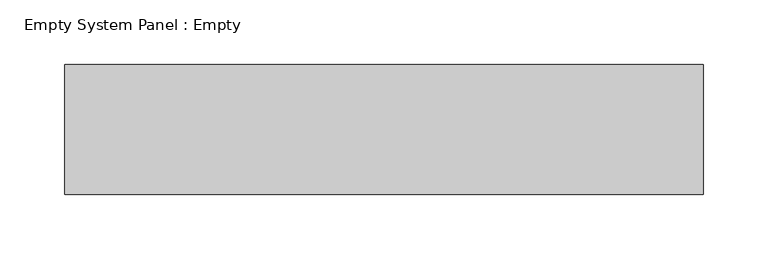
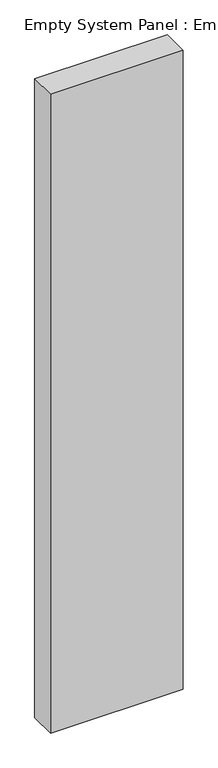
"""IFC4 building model written with IfcOpenShell, lengths in millimetres: plate geometry, Empty System Panel : Empty."""

from ifc_helpers import new_model, si_unit, origin, origin_with_axes, place, context, project, spatial, polyline, outline, extrude, source, transform, mapped, element, save


def empty_system_panel_empty_9535f070(model_context):
    return source(origin(), model_context, "Body", "SweptSolid", [
        extrude(outline(polyline([(245.75, 50.0), (-245.75, 50.0), (-245.75, 150.0), (245.75, 150.0), (245.75, 50.0)])), origin_with_axes(), (0.0, 0.0, 1.0), 2500.0),
    ])


if __name__ == "__main__":
    model = new_model("IFC4")
    model_context = context("Model", 3, world=origin())
    ifc_project = project(units=[si_unit("LENGTHUNIT", "METRE", prefix="MILLI")], contexts=[model_context])
    site = spatial("IfcSite", under=ifc_project)
    building = spatial("IfcBuilding", under=site)
    placement = place(None, origin())
    empty_system_panel_empty_shape = empty_system_panel_empty_9535f070(model_context)
    element("IfcPlate", 1, ObjectType="Empty System Panel : Empty", at=placement, inside=building, context=model_context, shape_type="MappedRepresentation", body=[
        mapped(empty_system_panel_empty_shape, transform((0.0, 0.0, 0.0), x_axis=(1.0, 0.0, 0.0), y_axis=(0.0, 1.0, 0.0), z_axis=(0.0, 0.0, 1.0))),
    ])
    save(model, "model.ifc")
